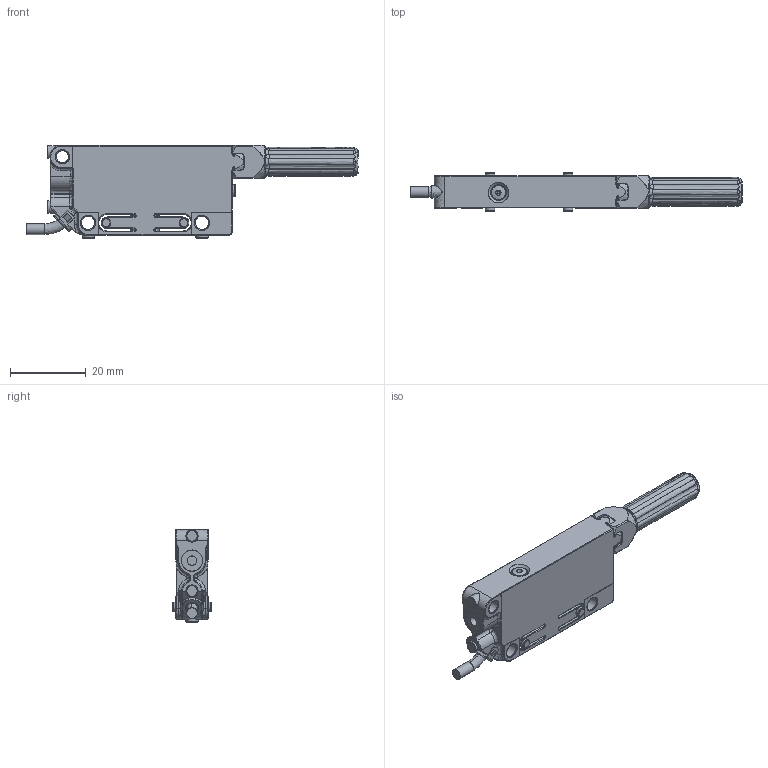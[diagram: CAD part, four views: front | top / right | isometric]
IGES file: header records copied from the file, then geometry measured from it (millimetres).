
Start section: C
Global section: file name: UxCK 09_D1.igs; native system: By Siemens PLM Incorporated; preprocessor: XPlus GENERIC/IGES 19.0.9; author: Author; organization: Title; date: 20180411.093713; units: millimetre
Bounding box: 87.45 x 10.2 x 24.5 mm (x, y, z)
Surface area: 6011.1 mm2 (no closed solid volume)
Topology: 0 solids, 0 shells, 653 faces, 3601 edges, 3586 vertices
Faces by surface type: bspline 653
